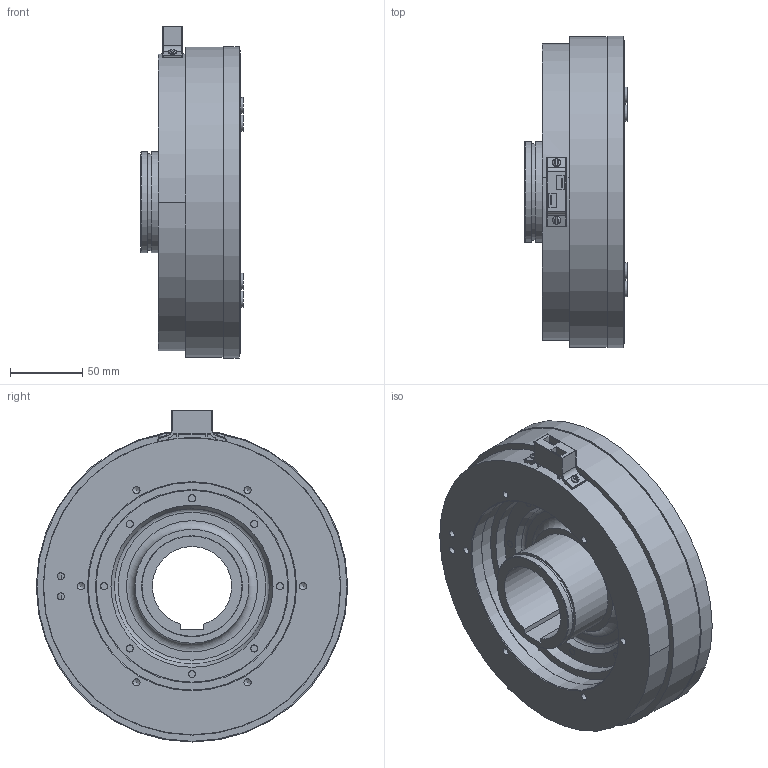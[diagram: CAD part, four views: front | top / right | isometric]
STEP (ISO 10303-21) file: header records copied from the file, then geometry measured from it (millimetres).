
FILE_DESCRIPTION(/* description */ (''),/* implementation_level */ '2;1');
FILE_NAME(/* name */ 'X:\INVENTOR\DISEGNI\08_Freni_Friz_Elettmag_Monodisco\08_26 EMSL_DF\EMSL_DF STEP\08_26_210_21 EMSL210_DF-BM_S@STEP.stp',/* time_stamp */ '2018-04-24T08:25:41+02:00',/* author */ ('stefano'),/* organization */ (''),/* preprocessor_version */ 'ST-DEVELOPER v17',/* originating_system */ 'Autodesk Inventor 2018',/* authorisation */ '');
FILE_SCHEMA (('AUTOMOTIVE_DESIGN { 1 0 10303 214 3 1 1 }'));
Length unit declared in the file: millimetre
Products named in the file (1): 08_26_210_21 EMSL210_DF-BM - Spina_Substitute_1
Bounding box: 71 x 216 x 230.22 mm (x, y, z)
Volume: 1300037 mm3; surface area: 304597.3 mm2
Topology: 3 solids, 3 shells, 545 faces, 1510 edges, 970 vertices
Faces by surface type: cylinder 261, plane 160, cone 66, torus 38, sphere 20
Full cylindrical faces by diameter (mm): 2 x8, 4.917 x16, 5.6 x2, 7 x8, 8.1 x4, 10 x8, 11 x8, 13 x8, 67 x1, 70 x2, 110 x1, 133 x2, 134 x2, 136 x1, 144 x1, 144.5 x1, 145 x1, 154.5 x1, 198.5 x1, 206.5 x1, 210 x1, 215 x1, 216 x1
Entity records: 18279 total; most frequent: CARTESIAN_POINT 3374, DIRECTION 3305, ORIENTED_EDGE 2938, EDGE_CURVE 1469, AXIS2_PLACEMENT_3D 1376, VERTEX_POINT 970, CIRCLE 830, EDGE_LOOP 675
